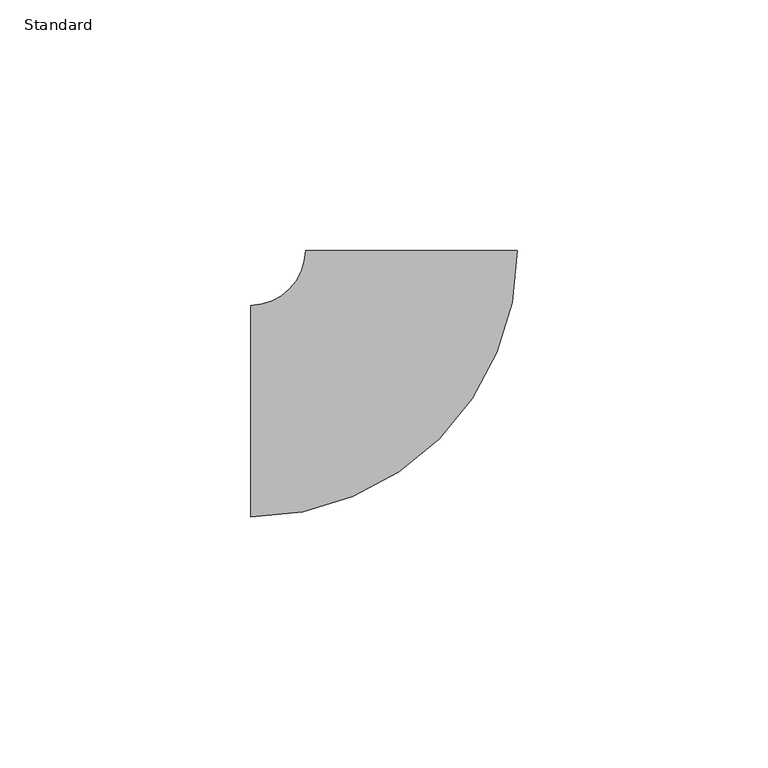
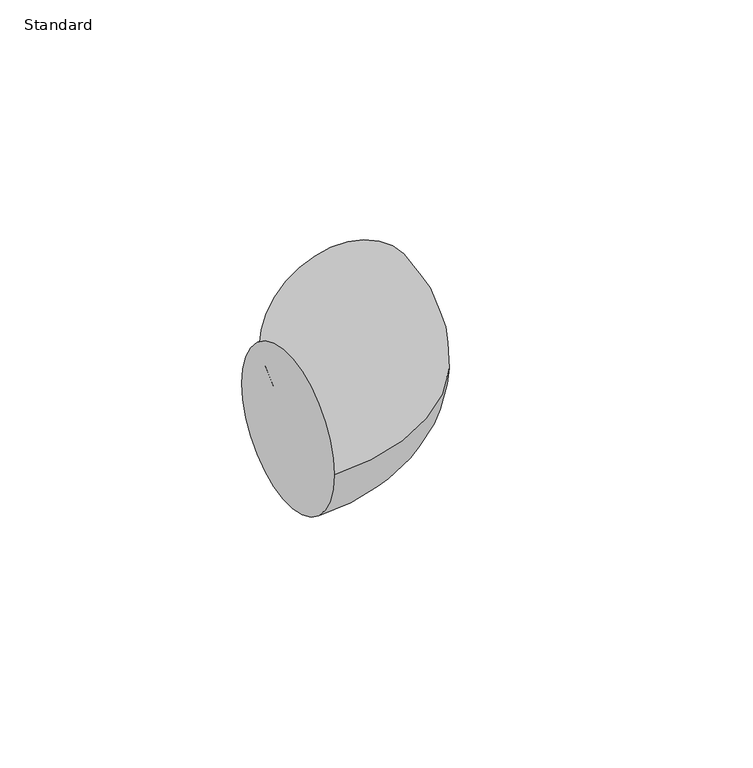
"""IFC4 building model written with IfcOpenShell, lengths in millimetres: pipe fitting geometry, Coude - Générique1 : Standard."""

import ifcopenshell
import ifcopenshell.guid

model = None  # the IFC model being written
_history = None  # IfcOwnerHistory: only IFC2X3 demands one
_inside = {}  # id of a spatial element -> (the spatial element, [elements in it])
_under = {}  # id of a project, library or spatial element -> (it, [spatial elements below it])
_declared = {}  # id of a project -> (the project, [libraries it declares])
_typed = {}  # id of a type object -> (the type object, [elements of that type])
_made_of = {}  # id of a material, layer set ... -> (it, [elements and type objects made of it])


def new_model(schema):
    """Start an empty IFC model of exactly this schema.

    Asked for "IFC4X3", IfcOpenShell would pick the latest addendum, in which some entities
    have other attributes; the version numbers below select the first issue.
    IFC2X3 requires an IfcOwnerHistory on every rooted entity: one is made here for all.
    """
    global model, _history
    if schema == "IFC4X3":
        model = ifcopenshell.file(schema_version=(4, 3, 0, 0))
    else:
        model = ifcopenshell.file(schema=schema)
    _inside.clear()
    _under.clear()
    _declared.clear()
    _typed.clear()
    _made_of.clear()
    _history = None
    if model.schema == "IFC2X3":
        org = make("IfcOrganization", Name="unknown")
        user = make(
            "IfcPersonAndOrganization",
            ThePerson=make("IfcPerson", FamilyName="unknown"),
            TheOrganization=org,
        )
        app = make(
            "IfcApplication",
            ApplicationDeveloper=org,
            Version="unknown",
            ApplicationFullName="unknown",
            ApplicationIdentifier="unknown",
        )
        _history = make(
            "IfcOwnerHistory",
            OwningUser=user,
            OwningApplication=app,
            ChangeAction="ADDED",
            CreationDate=0,
        )
    return model


def make(cls, **values):
    """One entity of the class cls with the attributes given. An attribute that is None is left unset."""
    return model.create_entity(
        cls, **{name: value for name, value in values.items() if value is not None}
    )


def rooted(cls, **values):
    """An entity with a GlobalId (a new one), such as an element, a storey or a relation."""
    return make(cls, GlobalId=ifcopenshell.guid.new(), OwnerHistory=_history, **values)


def si_unit(unit_type, name, prefix=None):
    """IfcSIUnit, for example si_unit("LENGTHUNIT", "METRE", prefix="MILLI")."""
    return make("IfcSIUnit", UnitType=unit_type, Prefix=prefix, Name=name)


def assignment(units):
    """IfcUnitAssignment: the units of a project."""
    return None if units is None else make("IfcUnitAssignment", Units=units)


def point(xyz):
    """IfcCartesianPoint."""
    return None if xyz is None else make("IfcCartesianPoint", Coordinates=xyz)


def direction(xyz):
    """IfcDirection."""
    return None if xyz is None else make("IfcDirection", DirectionRatios=xyz)


def frame(location, z_axis=None, x_axis=None):
    """IfcAxis2Placement3D, a coordinate frame: its origin and axes. An axis left out is left unset."""
    return make(
        "IfcAxis2Placement3D",
        Location=point(location),
        Axis=direction(z_axis),
        RefDirection=direction(x_axis),
    )


def origin():
    """The frame at (0, 0, 0) with its axes left unset."""
    return frame((0.0, 0.0, 0.0))


def place(relative_to, where):
    """IfcLocalPlacement: puts the frame where relative to a parent placement (None: the world)."""
    return make(
        "IfcLocalPlacement", PlacementRelTo=relative_to, RelativePlacement=where
    )


def context(
    kind, dimensions, precision=None, world=None, true_north=None, identifier=None
):
    """IfcGeometricRepresentationContext, for example the 3D "Model" context."""
    return make(
        "IfcGeometricRepresentationContext",
        ContextIdentifier=identifier,
        ContextType=kind,
        CoordinateSpaceDimension=dimensions,
        Precision=precision,
        WorldCoordinateSystem=world,
        TrueNorth=true_north,
    )


def project(units=None, contexts=None):
    """IfcProject with its units and contexts."""
    return rooted(
        "IfcProject",
        Name="project",
        RepresentationContexts=contexts,
        UnitsInContext=assignment(units),
    )


def spatial(cls, under=None, at=None, **own):
    """A site, building, storey or space (cls), placed at a placement, below another one or the project."""
    s = rooted(cls, ObjectPlacement=at, **own)
    if under is not None:
        _under.setdefault(under.id(), (under, []))[1].append(s)
    return s


def circle_curve(where, radius):
    """IfcCircle in the frame where."""
    return make("IfcCircle", Position=where, Radius=radius)


def ellipse_curve(where, semi_axis1, semi_axis2):
    """IfcEllipse in the frame where."""
    return make(
        "IfcEllipse", Position=where, SemiAxis1=semi_axis1, SemiAxis2=semi_axis2
    )


def trimmed(basis, trim1, trim2, sense, master):
    """IfcTrimmedCurve: the piece of a basis curve between two trims."""
    return make(
        "IfcTrimmedCurve",
        BasisCurve=basis,
        Trim1=trim1,
        Trim2=trim2,
        SenseAgreement=sense,
        MasterRepresentation=master,
    )


def shape(context_of_items, identifier, shape_type, items):
    """IfcShapeRepresentation: the items that make up one representation, for example the "Body"."""
    return make(
        "IfcShapeRepresentation",
        ContextOfItems=context_of_items,
        RepresentationIdentifier=identifier,
        RepresentationType=shape_type,
        Items=items,
    )


def source(mapping_origin, context_of_items, identifier, shape_type, items):
    """IfcRepresentationMap: a shape defined once, which mapped items show again and again."""
    return make(
        "IfcRepresentationMap",
        MappingOrigin=mapping_origin,
        MappedRepresentation=shape(context_of_items, identifier, shape_type, items),
    )


def transform(
    local_origin,
    x_axis=None,
    y_axis=None,
    z_axis=None,
    scale=None,
    scale2=None,
    scale3=None,
    uniform=True,
):
    """IfcCartesianTransformationOperator3D, or its non-uniform kind. x_axis, y_axis, z_axis: its Axis1, 2, 3."""
    if uniform:
        return make(
            "IfcCartesianTransformationOperator3D",
            Axis1=direction(x_axis),
            Axis2=direction(y_axis),
            LocalOrigin=point(local_origin),
            Scale=scale,
            Axis3=direction(z_axis),
        )
    return make(
        "IfcCartesianTransformationOperator3DnonUniform",
        Axis1=direction(x_axis),
        Axis2=direction(y_axis),
        LocalOrigin=point(local_origin),
        Scale=scale,
        Axis3=direction(z_axis),
        Scale2=scale2,
        Scale3=scale3,
    )


def mapped(mapping_source, mapping_target):
    """IfcMappedItem: shows the shape of a source again, moved by a transform."""
    return make(
        "IfcMappedItem", MappingSource=mapping_source, MappingTarget=mapping_target
    )


def made_of(thing, what):
    """Note that an element or type object is made of a material, layer set ...; save() writes the relation."""
    if what is not None:
        _made_of.setdefault(what.id(), (what, []))[1].append(thing)
    return thing


def element(
    cls,
    number,
    at=None,
    inside=None,
    cuts=None,
    type_object=None,
    material=None,
    context=None,
    identifier="Body",
    shape_type=None,
    held_by="IfcProductDefinitionShape",
    body=None,
    shapes=None,
    **own,
):
    """One element of the class cls, such as IfcWall. Its Tag is "e" and its number.

    at: its placement. inside: the storey or other place that contains it. cuts: it is an
    opening in that element (IfcRelVoidsElement). A single representation is given by context,
    identifier, shape_type and body (its items); several are given by shapes. held_by: the class
    of the entity that holds the representations. save() writes the other relations.
    """
    e = rooted(cls, Tag="e%d" % number, ObjectPlacement=at, **own)
    if body is not None:
        shapes = [shape(context, identifier, shape_type, body)]
    if shapes is not None:
        e.Representation = make(held_by, Representations=shapes)
    if inside is not None:
        _inside.setdefault(inside.id(), (inside, []))[1].append(e)
    if cuts is not None:
        rooted(
            "IfcRelVoidsElement", RelatingBuildingElement=cuts, RelatedOpeningElement=e
        )
    if type_object is not None:
        _typed.setdefault(type_object.id(), (type_object, []))[1].append(e)
    return made_of(e, material)


def aggregate(whole, parts):
    """IfcRelAggregates: a whole, such as a stair, and the parts it consists of."""
    return rooted("IfcRelAggregates", RelatingObject=whole, RelatedObjects=parts)


def save(model, path):
    """Write the relations noted so far, then the file.

    IfcRelAggregates (storeys below a building ...), IfcRelContainedInSpatialStructure (elements
    in a storey), IfcRelDefinesByType, IfcRelAssociatesMaterial and IfcRelDeclares: one each for
    every whole, place, type object, material and project.
    """
    for whole, parts in _under.values():
        aggregate(whole, parts)
    for where, things in _inside.values():
        rooted(
            "IfcRelContainedInSpatialStructure",
            RelatedElements=things,
            RelatingStructure=where,
        )
    for kind, things in _typed.values():
        rooted("IfcRelDefinesByType", RelatedObjects=things, RelatingType=kind)
    for what, things in _made_of.values():
        rooted("IfcRelAssociatesMaterial", RelatedObjects=things, RelatingMaterial=what)
    for by, libraries in _declared.values():
        rooted("IfcRelDeclares", RelatingContext=by, RelatedDefinitions=libraries)
    model.write(path)


def plane_surface(at):
    """IfcPlane: the flat surface through the origin of the frame at, square to its z axis."""
    return make("IfcPlane", Position=at)


def revolved_surface(curve, axis_point, axis_direction):
    """IfcSurfaceOfRevolution: the curve turned about the line through axis_point along axis_direction."""
    return make(
        "IfcSurfaceOfRevolution",
        SweptCurve=make("IfcArbitraryOpenProfileDef", ProfileType="CURVE", Curve=curve),
        AxisPosition=make("IfcAxis1Placement", Location=point(axis_point), Axis=direction(axis_direction)),
    )


def advanced_brep(points, edges, surfaces, faces):
    """IfcAdvancedBrep: a solid bounded by faces that lie on surfaces and meet in shared edges.

    An edge is (start, end): straight between two places in points (the first is 0);
    or (start, end, curve); or (start, end, curve, False) where it runs against its curve.
    A face is (place in surfaces, loops), or (place, loops, False) where it looks against
    its surface's normal. A loop lists edges by number (the first is 1), with a minus sign
    where the edge is run from its end to its start. The first loop is the outer one.
    """
    corners = [point(p) for p in points]
    vertices = [make("IfcVertexPoint", VertexGeometry=c) for c in corners]
    made = []
    for start, end, *more in edges:
        made.append(
            make(
                "IfcEdgeCurve",
                EdgeStart=vertices[start],
                EdgeEnd=vertices[end],
                EdgeGeometry=more[0] if more else make("IfcPolyline", Points=[corners[start], corners[end]]),
                SameSense=more[1] if len(more) > 1 else True,
            )
        )
    hull = []
    for where, loops, *sense in faces:
        bounds = []
        for j, loop in enumerate(loops):
            ring = [make("IfcOrientedEdge", EdgeElement=made[abs(k) - 1], Orientation=k > 0) for k in loop]
            bounds.append(
                make(
                    "IfcFaceOuterBound" if j == 0 else "IfcFaceBound",
                    Bound=make("IfcEdgeLoop", EdgeList=ring),
                    Orientation=True,
                )
            )
        hull.append(make("IfcAdvancedFace", Bounds=bounds, FaceSurface=surfaces[where], SameSense=sense[0] if sense else True))
    return make("IfcAdvancedBrep", Outer=make("IfcClosedShell", CfsFaces=hull))


def standard_715b0e56(model_context):
    return source(origin(), model_context, "Body", "AdvancedBrep", [
        advanced_brep(
        [(-32.0, -21.1, 0.0), (-32.0, 21.1, 0.0), (21.1071975, 31.995253, 0.0), (-21.0928015, 32.0047454, 0.0)],
        [
            (0, 1, circle_curve(frame((-32.0, 0.0, 0.0), z_axis=(-1.0, 0.0, 0.0), x_axis=(0.0, 1.0, 0.0)), 21.1)),
            (1, 0, circle_curve(frame((-32.0, 0.0, 0.0), z_axis=(-1.0, 0.0, 0.0), x_axis=(0.0, 1.0, 0.0)), 21.1)),
            (2, 3, circle_curve(frame((0.007198, 31.9999992, 0.0), z_axis=(0.00022493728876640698, 0.9999999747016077, 0.0), x_axis=(-0.9999999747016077, 0.00022493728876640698, 0.0)), 21.1)),
            (3, 2, circle_curve(frame((0.007198, 31.9999992, 0.0), z_axis=(0.00022493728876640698, 0.9999999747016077, 0.0), x_axis=(-0.9999999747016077, 0.00022493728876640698, 0.0)), 21.1)),
            (3, 1, circle_curve(frame((-32.0, 32.0071988, 0.0), z_axis=(0.0, 0.0, -1.0), x_axis=(0.0, -1.0, 0.0)), 10.9071988)),
            (0, 2, circle_curve(frame((-32.0, 32.0071988, 0.0), z_axis=(0.0, 0.0, 1.0), x_axis=(0.0, -1.0, 0.0)), 53.1071988)),
        ],
        [
            plane_surface(frame((-32.0, 0.0, 0.0), z_axis=(-1.0, 0.0, 0.0), x_axis=(0.0, 0.0, 1.0))),
            plane_surface(frame((0.007198, 31.9999992, 0.0), z_axis=(0.0002249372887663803, 0.9999999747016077, 0.0), x_axis=(0.0, 0.0, 1.0))),
            revolved_surface(trimmed(ellipse_curve(frame((-32.0, 0.0, 0.0), z_axis=(-1.0, 0.0, 0.0), x_axis=(0.0, 1.0, 0.0)), 21.1, 21.1), [point((-32.0, -21.1, 0.0))], [point((-32.0, 21.1, 0.0))], True, "CARTESIAN"), (-32.0, 32.0071988, 0.0), (0.0, 0.0, 1.0)),
            revolved_surface(trimmed(ellipse_curve(frame((-32.0, 0.0, 0.0), z_axis=(-1.0, 0.0, 0.0), x_axis=(0.0, 1.0, 0.0)), 21.1, 21.1), [point((-32.0, 21.1, 0.0))], [point((-32.0, -21.1, 0.0))], True, "CARTESIAN"), (-32.0, 32.0071988, 0.0), (0.0, 0.0, 1.0)),
        ],
        [
            (0, [[1, 2]]),
            (1, [[3, 4]]),
            (2, [[5, -1, 6, -4]]),
            (3, [[-6, -2, -5, -3]]),
        ],
    ),
    ])


if __name__ == "__main__":
    model = new_model("IFC4")
    model_context = context("Model", 3, world=origin())
    ifc_project = project(units=[si_unit("LENGTHUNIT", "METRE", prefix="MILLI")], contexts=[model_context])
    site = spatial("IfcSite", under=ifc_project)
    building = spatial("IfcBuilding", under=site)
    placement = place(None, origin())
    standard_shape = standard_715b0e56(model_context)
    element("IfcPipeFitting", 1, ObjectType="Coude - Générique1 : Standard", at=placement, inside=building, context=model_context, shape_type="MappedRepresentation", body=[
        mapped(standard_shape, transform((0.0, 0.0, 0.0), x_axis=(1.0, 0.0, 0.0), y_axis=(0.0, 1.0, 0.0), z_axis=(0.0, 0.0, 1.0))),
    ])
    save(model, "model.ifc")
